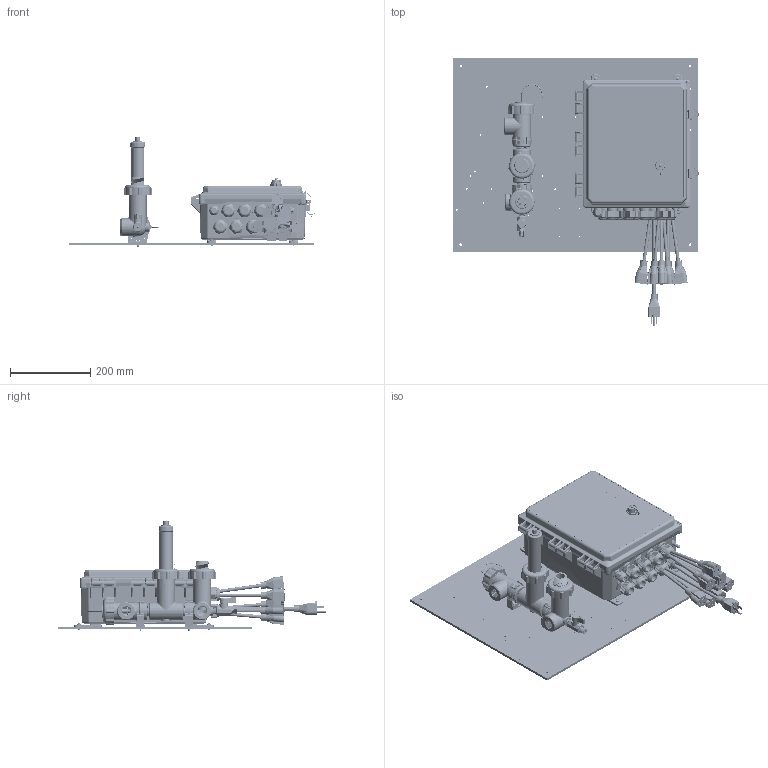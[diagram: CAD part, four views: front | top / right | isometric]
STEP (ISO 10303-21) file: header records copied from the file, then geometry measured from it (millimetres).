
FILE_DESCRIPTION (( 'STEP AP203' ), '1' );
FILE_NAME ('W900-CT-PAMNNN.STEP', '2018-03-09T19:10:22', ( '' ), ( '' ), 'SwSTEP 2.0', 'SolidWorks 2016', '' );
FILE_SCHEMA (( 'CONFIG_CONTROL_DESIGN' ));
Length unit declared in the file: inch
Products named in the file (37): IMS0011_4882K14; IMS0037_Cord1; IMS0023_30075T212; IMS0033; ISA0025; IMS0034; IMR0003; 102907; IMS0035_91500A537; IMC0006; IMS0012; ISA0006; 103861; IMC0009_102879-01; IMC0001; 103860_Cord1; ISA0033; ISA0023; IMS0036_91772A829; ISA0026; W900 Shell; IMS0010; IMS0005; IMS0029; IMC0002; IMS0006; IMC0010; IMC0003; 102903_102903; W900-CT-PAMNNN; IMC0004; 102906; IMS0027_98273A320; IMS0013
Assembly tree (66 placements, depth 5):
  W900-CT-PAMNNN
    IMR0003
    W900 Shell
      W900 Shell
      IMS0034  x4
      IMS0035_91500A537  x4
      IMS0036_91772A829  x4
      ISA0006
        102903_102903
        102906
        103860_Cord1  x3
        103861
      ISA0006
        102903_102903
        102906
        103860_Cord1  x2
        103861
      ISA0006
        102907
        102903_102903
        102906
        103860_Cord1  x3
        103861
      IMS0037_Cord1
    ISA0033
      ISA0023
        IMS0013
        IMS0012
      IMC0009_102879-01
      IMC0002
      IMS0011_4882K14  x2
      IMC0004
      ISA0026
        IMC0003
        IMS0010
        IMS0006
        ISA0025
          IMC0006
          IMS0029  x2
      IMS0005
      IMS0006  x2
      IMC0001  x3
      IMS0033
      IMC0010
    IMS0023_30075T212  x2
    IMS0027_98273A320  x2
Bounding box: 612.29 x 665.28 x 272.69 mm (x, y, z)
Volume: 4497729.4 mm3; surface area: 1975357.5 mm2
Topology: 104 solids, 107 shells, 15489 faces, 40408 edges, 25272 vertices
Faces by surface type: plane 6398, cylinder 4471, bspline 3047, cone 962, torus 507, sphere 104
Entity records: 681613 total; most frequent: CARTESIAN_POINT 383785, ORIENTED_EDGE 70222, DIRECTION 48557, EDGE_CURVE 35115, VERTEX_POINT 22071, AXIS2_PLACEMENT_3D 16800, VECTOR 14957, LINE 14957
